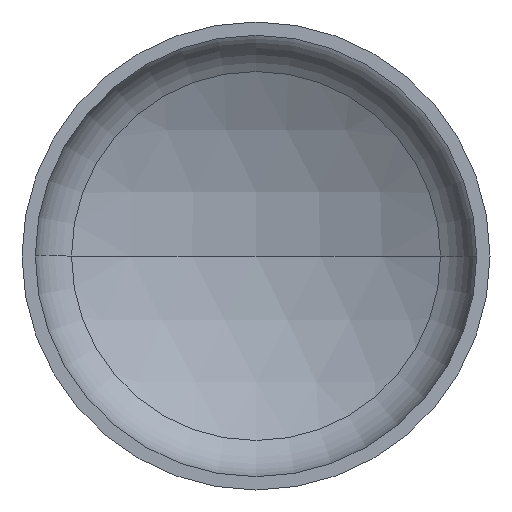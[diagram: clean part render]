
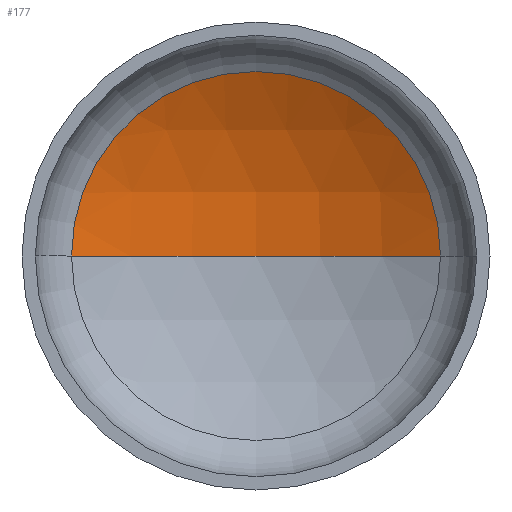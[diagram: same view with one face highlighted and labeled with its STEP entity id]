
A CAD part, front view. The second image highlights one B-rep face of the part: STEP entity #177.
In plain terms, the highlighted spherical face has radius 1520 mm.
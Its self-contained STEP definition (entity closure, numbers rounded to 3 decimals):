
#2 = AXIS2_PLACEMENT_3D ( 'NONE', #120, #134, #195 ) ;
#19 = CARTESIAN_POINT ( 'NONE',  ( 0., 569.643, 0. ) ) ;
#27 = AXIS2_PLACEMENT_3D ( 'NONE', #169, #273, #219 ) ;
#29 = AXIS2_PLACEMENT_3D ( 'NONE', #147, #148, #152 ) ;
#31 = AXIS2_PLACEMENT_3D ( 'NONE', #176, #178, #168 ) ;
#60 = EDGE_CURVE ( 'NONE', #324, #146, #327, .T. ) ;
#64 = EDGE_CURVE ( 'NONE', #274, #324, #244, .T. ) ;
#82 = FACE_OUTER_BOUND ( 'NONE', #368, .T. ) ;
#120 = CARTESIAN_POINT ( 'NONE',  ( 0., -950.357, 0. ) ) ;
#134 = DIRECTION ( 'NONE',  ( 0., 0., 1. ) ) ;
#138 = ORIENTED_EDGE ( 'NONE', *, *, #60, .T. ) ;
#146 = VERTEX_POINT ( 'NONE', #173 ) ;
#147 = CARTESIAN_POINT ( 'NONE',  ( 0., -950.357, 0. ) ) ;
#148 = DIRECTION ( 'NONE',  ( 0., 0., -1. ) ) ;
#152 = DIRECTION ( 'NONE',  ( -1., 0., 0. ) ) ;
#162 = ORIENTED_EDGE ( 'NONE', *, *, #330, .F. ) ;
#167 = ORIENTED_EDGE ( 'NONE', *, *, #64, .T. ) ;
#168 = DIRECTION ( 'NONE',  ( 1., 0., 0. ) ) ;
#169 = CARTESIAN_POINT ( 'NONE',  ( 0., -950.357, 0. ) ) ;
#173 = CARTESIAN_POINT ( 'NONE',  ( -748.878, 372.361, 0. ) ) ;
#176 = CARTESIAN_POINT ( 'NONE',  ( 0., 372.361, 0. ) ) ;
#177 = ADVANCED_FACE ( 'NONE', ( #82 ), #234, .F. ) ;
#178 = DIRECTION ( 'NONE',  ( 0., -1., 0. ) ) ;
#192 = CARTESIAN_POINT ( 'NONE',  ( 748.878, 372.361, 0. ) ) ;
#195 = DIRECTION ( 'NONE',  ( 1., 0., 0. ) ) ;
#219 = DIRECTION ( 'NONE',  ( -1., 0., 0. ) ) ;
#234 = SPHERICAL_SURFACE ( 'NONE', #27, 1520. ) ;
#244 = CIRCLE ( 'NONE', #29, 1520. ) ;
#265 = CIRCLE ( 'NONE', #2, 1520. ) ;
#273 = DIRECTION ( 'NONE',  ( 0., 0., -1. ) ) ;
#274 = VERTEX_POINT ( 'NONE', #19 ) ;
#324 = VERTEX_POINT ( 'NONE', #192 ) ;
#327 = CIRCLE ( 'NONE', #31, 748.878 ) ;
#330 = EDGE_CURVE ( 'NONE', #274, #146, #265, .T. ) ;
#368 = EDGE_LOOP ( 'NONE', ( #162, #167, #138 ) ) ;
